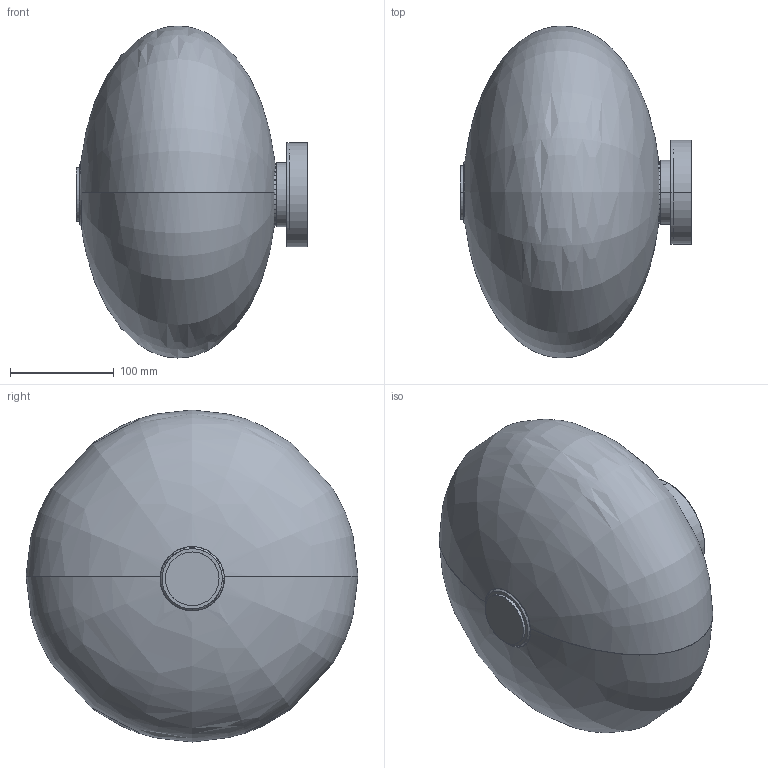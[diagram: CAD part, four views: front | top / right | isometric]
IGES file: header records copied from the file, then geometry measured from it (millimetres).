
Start section: SolidWorks IGES file using analytic representation for surfaces
Global section: file name: C:\Users\Agustin\Desktop\COMPARTIDA\Nueva Coleccion Septiembre 2026\TOULON_1365\TOULON_A1365\3D\TOULON_A1365.IGS; native system: SolidWorks 2023; preprocessor: SolidWorks 2023; author: Agustin; date: 260703.114213; units: millimetre
Bounding box: 223 x 320 x 320 mm (x, y, z)
Surface area: 524179.9 mm2 (no closed solid volume)
Topology: 0 solids, 0 shells, 101 faces, 1188 edges, 1182 vertices
Faces by surface type: revolution 51, bspline 50
